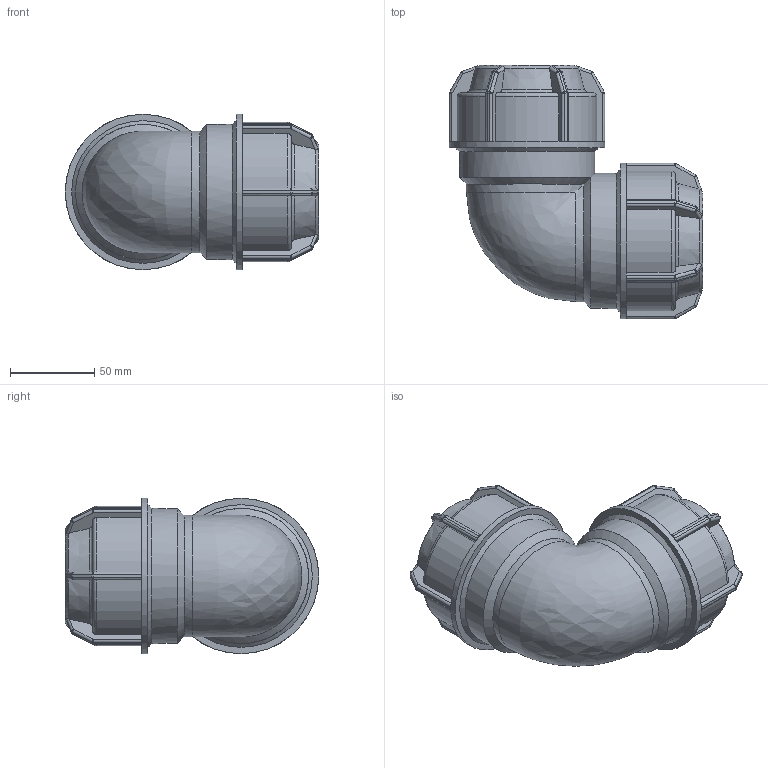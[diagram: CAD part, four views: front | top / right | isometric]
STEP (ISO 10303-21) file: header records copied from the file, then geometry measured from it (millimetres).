
FILE_DESCRIPTION(/* description */ ('PLASSON L.14 90° ELBOW (SILVER) 50-50'),/* implementation_level */ '2;1');
FILE_NAME(/* name */ 'C:\Dropbox\KIMPROJECTS-Inventor\99-16-3568-Processing\Silver+MF ISRAEL\140500\140500050.ipt.stp',/* time_stamp */ '2018-04-09T13:03:49+03:00',/* author */ ('KIM'),/* organization */ (''),/* preprocessor_version */ 'ST-DEVELOPER v15.6',/* originating_system */ 'Autodesk Inventor 2015',/* authorisation */ '');
FILE_SCHEMA (('AUTOMOTIVE_DESIGN { 1 0 10303 214 3 1 1 }'));
Length unit declared in the file: millimetre
Products named in the file (1): 140500050
Bounding box: 150 x 150 x 92 mm (x, y, z)
Volume: 552856.4 mm3; surface area: 93685.8 mm2
Topology: 1 solids, 1 shells, 409 faces, 971 edges, 556 vertices
Faces by surface type: plane 193, cylinder 120, sphere 48, torus 29, cone 18, bspline 1
Full cylindrical faces by diameter (mm): 45 x2, 50 x4, 80 x2, 92 x2
Entity records: 11860 total; most frequent: CARTESIAN_POINT 3060, DIRECTION 1854, ORIENTED_EDGE 1818, EDGE_CURVE 909, AXIS2_PLACEMENT_3D 747, VERTEX_POINT 532, EDGE_LOOP 431, FACE_OUTER_BOUND 404
